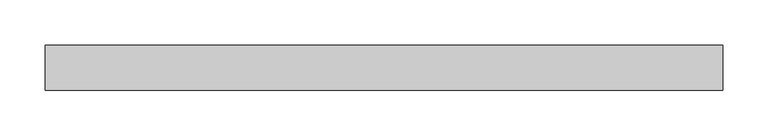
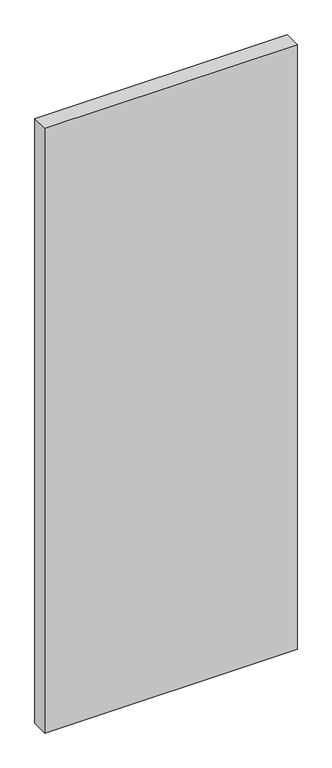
"""IFC4 building model written with IfcOpenShell, lengths in millimetres: plate geometry, Системная панель : Стекло(50мм)."""

from ifc_helpers import new_model, si_unit, origin, origin_with_axes, place, context, project, spatial, polyline, outline, extrude, source, transform, mapped, element, save


def plate_8821ab84(model_context):
    return source(origin(), model_context, "Body", "SweptSolid", [
        extrude(outline(polyline([(375.0, -25.0), (-375.0, -25.0), (-375.0, 25.0), (375.0, 25.0), (375.0, -25.0)])), origin_with_axes(), (0.0, 0.0, 1.0), 1900.0),
    ])


if __name__ == "__main__":
    model = new_model("IFC4")
    model_context = context("Model", 3, world=origin())
    ifc_project = project(units=[si_unit("LENGTHUNIT", "METRE", prefix="MILLI")], contexts=[model_context])
    site = spatial("IfcSite", under=ifc_project)
    building = spatial("IfcBuilding", under=site)
    placement = place(None, origin())
    plate_shape = plate_8821ab84(model_context)
    element("IfcPlate", 1, ObjectType="Системная панель : Стекло(50мм)", at=placement, inside=building, context=model_context, shape_type="MappedRepresentation", body=[
        mapped(plate_shape, transform((0.0, 0.0, 0.0), x_axis=(1.0, 0.0, 0.0), y_axis=(0.0, 1.0, 0.0), z_axis=(0.0, 0.0, 1.0))),
    ])
    save(model, "model.ifc")
